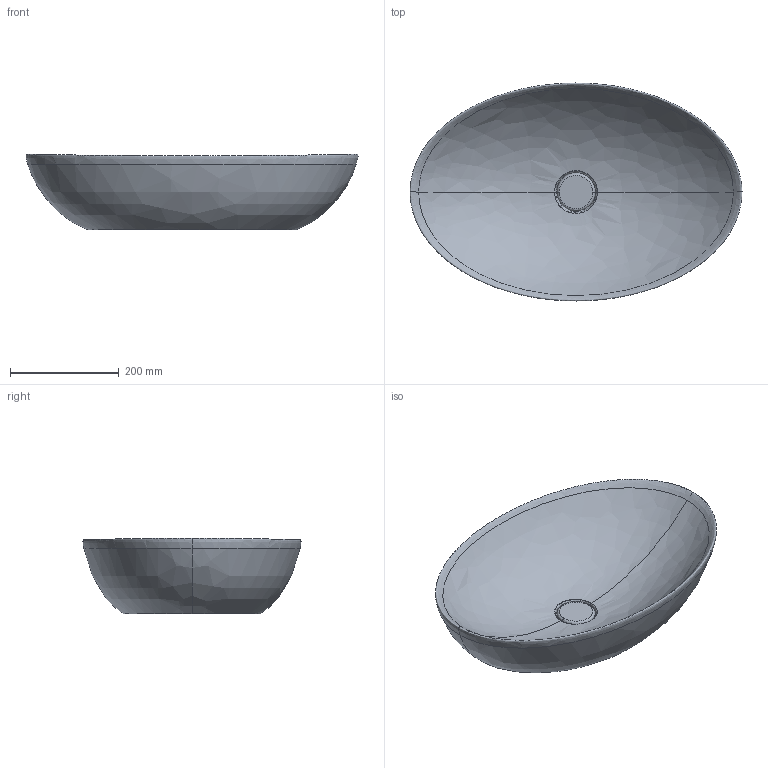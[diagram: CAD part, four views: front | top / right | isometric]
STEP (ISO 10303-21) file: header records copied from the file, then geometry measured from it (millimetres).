
FILE_DESCRIPTION(/* description */ (''),/* implementation_level */ '2;1');
FILE_NAME(/* name */ 'SDR_FL~1',/* time_stamp */ '2020-11-13T16:32:47+01:00',/* author */ (''),/* organization */ (''),/* preprocessor_version */ 'ST-DEVELOPER v15',/* originating_system */ '',/* authorisation */ '');
FILE_SCHEMA (('AUTOMOTIVE_DESIGN'));
Length unit declared in the file: millimetre
Products named in the file (1): Document
Bounding box: 609.92 x 400.51 x 138.58 mm (x, y, z)
Volume: 8629436.5 mm3; surface area: 558319 mm2
Topology: 2 solids, 2 shells, 15 faces, 30 edges, 20 vertices
Faces by surface type: bspline 12, plane 3
Entity records: 1875 total; most frequent: CARTESIAN_POINT 1652, ORIENTED_EDGE 56, EDGE_CURVE 28, EDGE_LOOP 16, VERTEX_POINT 16, ADVANCED_FACE 15, FACE_OUTER_BOUND 15, DIRECTION 9
